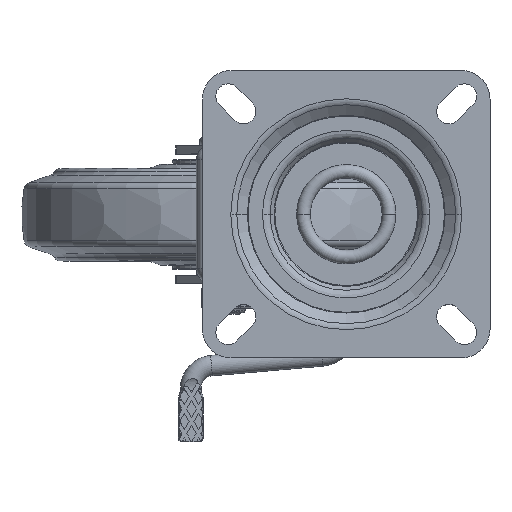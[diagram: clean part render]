
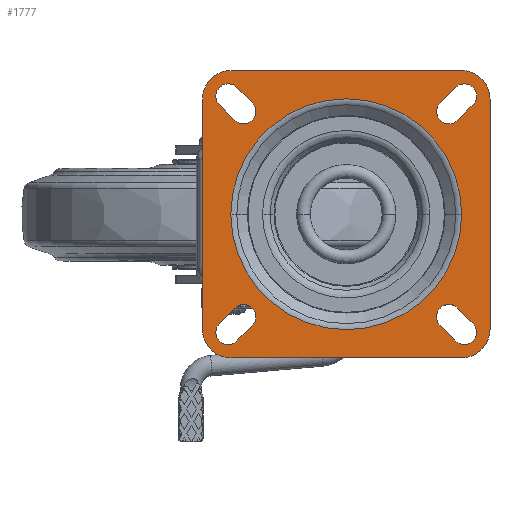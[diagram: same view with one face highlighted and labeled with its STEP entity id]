
A CAD part, top view. The second image highlights one B-rep face of the part: STEP entity #1777.
In plain terms, the highlighted planar face has unit normal (0, 0, 1).
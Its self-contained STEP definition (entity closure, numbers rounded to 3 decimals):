
#1777=ADVANCED_FACE('',(#3155,#3156,#3157,#3158,#3159,#3160),#2768,.T.);
#2768=PLANE('',#18136);
#3155=FACE_BOUND('',#3514,.T.);
#3156=FACE_BOUND('',#3515,.T.);
#3157=FACE_BOUND('',#3516,.T.);
#3158=FACE_BOUND('',#3517,.T.);
#3159=FACE_BOUND('',#3518,.T.);
#3160=FACE_BOUND('',#3519,.T.);
#3514=EDGE_LOOP('',(#8641,#8642,#8643,#8644,#8645,#8646,#8647,#8648));
#3515=EDGE_LOOP('',(#8649,#8650));
#3516=EDGE_LOOP('',(#8651,#8652,#8653,#8654));
#3517=EDGE_LOOP('',(#8655,#8656,#8657,#8658));
#3518=EDGE_LOOP('',(#8659,#8660,#8661,#8662));
#3519=EDGE_LOOP('',(#8663,#8664,#8665,#8666));
#4820=LINE('',#27532,#5797);
#4821=LINE('',#27537,#5798);
#4822=LINE('',#27541,#5799);
#4823=LINE('',#27545,#5800);
#4824=LINE('',#27552,#5801);
#4825=LINE('',#27556,#5802);
#4826=LINE('',#27557,#5803);
#4827=LINE('',#27562,#5804);
#4828=LINE('',#27565,#5805);
#4829=LINE('',#27570,#5806);
#4830=LINE('',#27576,#5807);
#4831=LINE('',#27580,#5808);
#5797=VECTOR('',#20883,1.);
#5798=VECTOR('',#20886,1.);
#5799=VECTOR('',#20889,1.);
#5800=VECTOR('',#20892,1.);
#5801=VECTOR('',#20899,1.);
#5802=VECTOR('',#20902,1.);
#5803=VECTOR('',#20903,1.);
#5804=VECTOR('',#20906,1.);
#5805=VECTOR('',#20909,1.);
#5806=VECTOR('',#20912,1.);
#5807=VECTOR('',#20917,1.);
#5808=VECTOR('',#20920,1.);
#6534=CIRCLE('',#18121,56.203);
#6535=CIRCLE('',#18123,14.);
#6536=CIRCLE('',#18124,14.);
#6537=CIRCLE('',#18125,14.);
#6538=CIRCLE('',#18126,14.);
#6539=CIRCLE('',#18127,56.203);
#6540=CIRCLE('',#18128,6.);
#6541=CIRCLE('',#18129,6.);
#6542=CIRCLE('',#18130,6.);
#6543=CIRCLE('',#18131,6.);
#6544=CIRCLE('',#18132,6.);
#6545=CIRCLE('',#18133,6.);
#6546=CIRCLE('',#18134,6.);
#6547=CIRCLE('',#18135,6.);
#8641=ORIENTED_EDGE('',*,*,#15183,.T.);
#8642=ORIENTED_EDGE('',*,*,#15184,.T.);
#8643=ORIENTED_EDGE('',*,*,#15185,.T.);
#8644=ORIENTED_EDGE('',*,*,#15186,.T.);
#8645=ORIENTED_EDGE('',*,*,#15187,.T.);
#8646=ORIENTED_EDGE('',*,*,#15188,.T.);
#8647=ORIENTED_EDGE('',*,*,#15189,.T.);
#8648=ORIENTED_EDGE('',*,*,#15190,.T.);
#8649=ORIENTED_EDGE('',*,*,#15182,.T.);
#8650=ORIENTED_EDGE('',*,*,#15191,.T.);
#8651=ORIENTED_EDGE('',*,*,#15192,.F.);
#8652=ORIENTED_EDGE('',*,*,#15193,.F.);
#8653=ORIENTED_EDGE('',*,*,#15194,.F.);
#8654=ORIENTED_EDGE('',*,*,#15195,.F.);
#8655=ORIENTED_EDGE('',*,*,#15196,.F.);
#8656=ORIENTED_EDGE('',*,*,#15197,.F.);
#8657=ORIENTED_EDGE('',*,*,#15198,.F.);
#8658=ORIENTED_EDGE('',*,*,#15199,.F.);
#8659=ORIENTED_EDGE('',*,*,#15200,.F.);
#8660=ORIENTED_EDGE('',*,*,#15201,.F.);
#8661=ORIENTED_EDGE('',*,*,#15202,.F.);
#8662=ORIENTED_EDGE('',*,*,#15203,.F.);
#8663=ORIENTED_EDGE('',*,*,#15204,.F.);
#8664=ORIENTED_EDGE('',*,*,#15205,.F.);
#8665=ORIENTED_EDGE('',*,*,#15206,.F.);
#8666=ORIENTED_EDGE('',*,*,#15207,.F.);
#13279=VERTEX_POINT('',#27527);
#13280=VERTEX_POINT('',#27529);
#13281=VERTEX_POINT('',#27533);
#13282=VERTEX_POINT('',#27534);
#13283=VERTEX_POINT('',#27536);
#13284=VERTEX_POINT('',#27538);
#13285=VERTEX_POINT('',#27540);
#13286=VERTEX_POINT('',#27542);
#13287=VERTEX_POINT('',#27544);
#13288=VERTEX_POINT('',#27546);
#13289=VERTEX_POINT('',#27550);
#13290=VERTEX_POINT('',#27551);
#13291=VERTEX_POINT('',#27553);
#13292=VERTEX_POINT('',#27555);
#13293=VERTEX_POINT('',#27558);
#13294=VERTEX_POINT('',#27559);
#13295=VERTEX_POINT('',#27561);
#13296=VERTEX_POINT('',#27563);
#13297=VERTEX_POINT('',#27566);
#13298=VERTEX_POINT('',#27567);
#13299=VERTEX_POINT('',#27569);
#13300=VERTEX_POINT('',#27571);
#13301=VERTEX_POINT('',#27574);
#13302=VERTEX_POINT('',#27575);
#13303=VERTEX_POINT('',#27577);
#13304=VERTEX_POINT('',#27579);
#15182=EDGE_CURVE('',#13279,#13280,#6534,.T.);
#15183=EDGE_CURVE('',#13281,#13282,#4820,.T.);
#15184=EDGE_CURVE('',#13282,#13283,#6535,.T.);
#15185=EDGE_CURVE('',#13283,#13284,#4821,.T.);
#15186=EDGE_CURVE('',#13284,#13285,#6536,.T.);
#15187=EDGE_CURVE('',#13285,#13286,#4822,.T.);
#15188=EDGE_CURVE('',#13286,#13287,#6537,.T.);
#15189=EDGE_CURVE('',#13287,#13288,#4823,.T.);
#15190=EDGE_CURVE('',#13288,#13281,#6538,.T.);
#15191=EDGE_CURVE('',#13280,#13279,#6539,.T.);
#15192=EDGE_CURVE('',#13289,#13290,#6540,.T.);
#15193=EDGE_CURVE('',#13291,#13289,#4824,.T.);
#15194=EDGE_CURVE('',#13292,#13291,#6541,.T.);
#15195=EDGE_CURVE('',#13290,#13292,#4825,.T.);
#15196=EDGE_CURVE('',#13293,#13294,#4826,.T.);
#15197=EDGE_CURVE('',#13295,#13293,#6542,.T.);
#15198=EDGE_CURVE('',#13296,#13295,#4827,.T.);
#15199=EDGE_CURVE('',#13294,#13296,#6543,.T.);
#15200=EDGE_CURVE('',#13297,#13298,#4828,.T.);
#15201=EDGE_CURVE('',#13299,#13297,#6544,.T.);
#15202=EDGE_CURVE('',#13300,#13299,#4829,.T.);
#15203=EDGE_CURVE('',#13298,#13300,#6545,.T.);
#15204=EDGE_CURVE('',#13301,#13302,#6546,.T.);
#15205=EDGE_CURVE('',#13303,#13301,#4830,.T.);
#15206=EDGE_CURVE('',#13304,#13303,#6547,.T.);
#15207=EDGE_CURVE('',#13302,#13304,#4831,.T.);
#18121=AXIS2_PLACEMENT_3D('',#27530,#20879,#20880);
#18123=AXIS2_PLACEMENT_3D('',#27535,#20884,#20885);
#18124=AXIS2_PLACEMENT_3D('',#27539,#20887,#20888);
#18125=AXIS2_PLACEMENT_3D('',#27543,#20890,#20891);
#18126=AXIS2_PLACEMENT_3D('',#27547,#20893,#20894);
#18127=AXIS2_PLACEMENT_3D('',#27548,#20895,#20896);
#18128=AXIS2_PLACEMENT_3D('',#27549,#20897,#20898);
#18129=AXIS2_PLACEMENT_3D('',#27554,#20900,#20901);
#18130=AXIS2_PLACEMENT_3D('',#27560,#20904,#20905);
#18131=AXIS2_PLACEMENT_3D('',#27564,#20907,#20908);
#18132=AXIS2_PLACEMENT_3D('',#27568,#20910,#20911);
#18133=AXIS2_PLACEMENT_3D('',#27572,#20913,#20914);
#18134=AXIS2_PLACEMENT_3D('',#27573,#20915,#20916);
#18135=AXIS2_PLACEMENT_3D('',#27578,#20918,#20919);
#18136=AXIS2_PLACEMENT_3D('',#27581,#20921,#20922);
#20879=DIRECTION('',(0.,0.,-1.));
#20880=DIRECTION('',(-1.,0.,0.));
#20883=DIRECTION('',(1.,0.,0.));
#20884=DIRECTION('',(0.,0.,1.));
#20885=DIRECTION('',(0.,-1.,0.));
#20886=DIRECTION('',(0.,1.,0.));
#20887=DIRECTION('',(0.,0.,1.));
#20888=DIRECTION('',(1.,0.,0.));
#20889=DIRECTION('',(-1.,0.,0.));
#20890=DIRECTION('',(0.,0.,1.));
#20891=DIRECTION('',(0.,1.,0.));
#20892=DIRECTION('',(0.,-1.,0.));
#20893=DIRECTION('',(0.,0.,1.));
#20894=DIRECTION('',(-1.,0.,0.));
#20895=DIRECTION('',(0.,0.,-1.));
#20896=DIRECTION('',(1.,0.,0.));
#20897=DIRECTION('',(0.,0.,1.));
#20898=DIRECTION('',(0.707,-0.707,0.));
#20899=DIRECTION('',(0.707,0.707,0.));
#20900=DIRECTION('',(0.,0.,1.));
#20901=DIRECTION('',(-0.707,0.707,0.));
#20902=DIRECTION('',(-0.707,-0.707,0.));
#20903=DIRECTION('',(0.707,-0.707,0.));
#20904=DIRECTION('',(0.,0.,1.));
#20905=DIRECTION('',(0.707,0.707,0.));
#20906=DIRECTION('',(-0.707,0.707,0.));
#20907=DIRECTION('',(0.,0.,1.));
#20908=DIRECTION('',(-0.707,-0.707,0.));
#20909=DIRECTION('',(-0.707,0.707,0.));
#20910=DIRECTION('',(0.,0.,1.));
#20911=DIRECTION('',(-0.707,-0.707,0.));
#20912=DIRECTION('',(0.707,-0.707,0.));
#20913=DIRECTION('',(0.,0.,1.));
#20914=DIRECTION('',(0.707,0.707,0.));
#20915=DIRECTION('',(0.,0.,1.));
#20916=DIRECTION('',(-0.707,0.707,0.));
#20917=DIRECTION('',(-0.707,-0.707,0.));
#20918=DIRECTION('',(0.,0.,1.));
#20919=DIRECTION('',(0.707,-0.707,0.));
#20920=DIRECTION('',(0.707,0.707,0.));
#20921=DIRECTION('',(0.,0.,1.));
#20922=DIRECTION('',(0.,1.,0.));
#27527=CARTESIAN_POINT('',(-56.203,0.,0.));
#27529=CARTESIAN_POINT('',(56.203,0.,0.));
#27530=CARTESIAN_POINT('',(0.,0.,0.));
#27532=CARTESIAN_POINT('',(-56.,-70.,0.));
#27533=CARTESIAN_POINT('',(-56.,-70.,0.));
#27534=CARTESIAN_POINT('',(56.,-70.,0.));
#27535=CARTESIAN_POINT('',(56.,-56.,0.));
#27536=CARTESIAN_POINT('',(70.,-56.,0.));
#27537=CARTESIAN_POINT('',(70.,-56.,0.));
#27538=CARTESIAN_POINT('',(70.,56.,0.));
#27539=CARTESIAN_POINT('',(56.,56.,0.));
#27540=CARTESIAN_POINT('',(56.,70.,0.));
#27541=CARTESIAN_POINT('',(56.,70.,0.));
#27542=CARTESIAN_POINT('',(-56.,70.,0.));
#27543=CARTESIAN_POINT('',(-56.,56.,0.));
#27544=CARTESIAN_POINT('',(-70.,56.,0.));
#27545=CARTESIAN_POINT('',(-70.,56.,0.));
#27546=CARTESIAN_POINT('',(-70.,-56.,0.));
#27547=CARTESIAN_POINT('',(-56.,-56.,0.));
#27548=CARTESIAN_POINT('',(0.,0.,0.));
#27549=CARTESIAN_POINT('',(57.5,57.5,0.));
#27550=CARTESIAN_POINT('',(61.743,53.257,0.));
#27551=CARTESIAN_POINT('',(53.257,61.743,0.));
#27552=CARTESIAN_POINT('',(54.243,45.757,0.));
#27553=CARTESIAN_POINT('',(54.243,45.757,0.));
#27554=CARTESIAN_POINT('',(50.,50.,0.));
#27555=CARTESIAN_POINT('',(45.757,54.243,0.));
#27556=CARTESIAN_POINT('',(53.257,61.743,0.));
#27557=CARTESIAN_POINT('',(45.757,-54.243,0.));
#27558=CARTESIAN_POINT('',(45.757,-54.243,0.));
#27559=CARTESIAN_POINT('',(53.257,-61.743,0.));
#27560=CARTESIAN_POINT('',(50.,-50.,0.));
#27561=CARTESIAN_POINT('',(54.243,-45.757,0.));
#27562=CARTESIAN_POINT('',(61.743,-53.257,0.));
#27563=CARTESIAN_POINT('',(61.743,-53.257,0.));
#27564=CARTESIAN_POINT('',(57.5,-57.5,0.));
#27565=CARTESIAN_POINT('',(-45.757,54.243,0.));
#27566=CARTESIAN_POINT('',(-45.757,54.243,0.));
#27567=CARTESIAN_POINT('',(-53.257,61.743,0.));
#27568=CARTESIAN_POINT('',(-50.,50.,0.));
#27569=CARTESIAN_POINT('',(-54.243,45.757,0.));
#27570=CARTESIAN_POINT('',(-61.743,53.257,0.));
#27571=CARTESIAN_POINT('',(-61.743,53.257,0.));
#27572=CARTESIAN_POINT('',(-57.5,57.5,0.));
#27573=CARTESIAN_POINT('',(-57.5,-57.5,0.));
#27574=CARTESIAN_POINT('',(-61.743,-53.257,0.));
#27575=CARTESIAN_POINT('',(-53.257,-61.743,0.));
#27576=CARTESIAN_POINT('',(-54.243,-45.757,0.));
#27577=CARTESIAN_POINT('',(-54.243,-45.757,0.));
#27578=CARTESIAN_POINT('',(-50.,-50.,0.));
#27579=CARTESIAN_POINT('',(-45.757,-54.243,0.));
#27580=CARTESIAN_POINT('',(-53.257,-61.743,0.));
#27581=CARTESIAN_POINT('',(0.,0.,0.));
